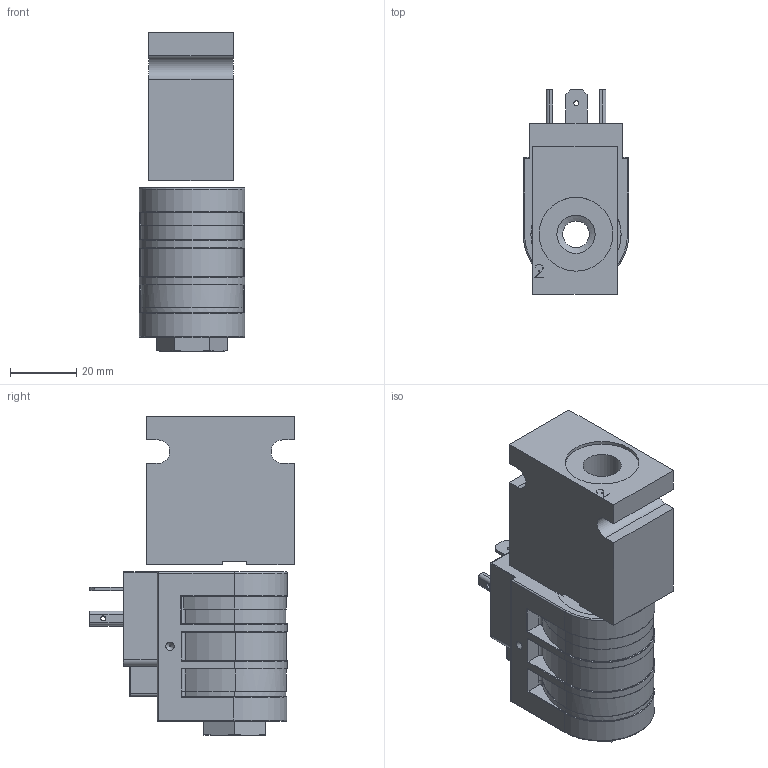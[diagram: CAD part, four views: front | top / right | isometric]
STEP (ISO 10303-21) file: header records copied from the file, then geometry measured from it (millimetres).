
FILE_DESCRIPTION(/* description */ ('Unknown'),/* implementation_level */ '2;1');
FILE_NAME(/* name */ 'UAS2F00',/* time_stamp */ '2017-04-26T09:35:16+01:00',/* author */ ('Unknown'),/* organization */ ('Unknown'),/* preprocessor_version */ 'ST-DEVELOPER v16.7',/* originating_system */ 'DEX',/* authorisation */ $);
FILE_SCHEMA (('AUTOMOTIVE_DESIGN {1 0 10303 214 3 1 1}'));
Length unit declared in the file: millimetre
Products named in the file (10): UAS2F00; UAS2F00-3D_Full; UAS2F00-3D_Full001; B-DMAA2; D-PHC - Copy; PT-EL-HC-TerminalConnectors; PHC_HirschThread; PHC_Disc; PHC_Body; Delta_1_2_nut1
Assembly tree (10 placements, depth 3):
  UAS2F00
    UAS2F00-3D_Full
    UAS2F00-3D_Full001
    B-DMAA2
    D-PHC - Copy
      PT-EL-HC-TerminalConnectors
      PHC_HirschThread
      PHC_Disc  x2
      PHC_Body
    Delta_1_2_nut1
Bounding box: 31.75 x 61.59 x 95.9 mm (x, y, z)
Volume: 91140.7 mm3; surface area: 27482.7 mm2
Topology: 10 solids, 10 shells, 325 faces, 800 edges, 498 vertices
Faces by surface type: plane 139, cylinder 108, cone 60, torus 12, sphere 6
Full cylindrical faces by diameter (mm): 0.2 x2, 0.5 x2, 1 x1, 1.5 x3, 4 x2, 6.3 x1, 8 x1, 11.5 x4, 12.7 x1, 13 x1, 13.05 x2, 14.348 x2, 16.48 x1, 22.22 x1, 27.18 x4
Entity records: 9707 total; most frequent: CARTESIAN_POINT 1686, DIRECTION 1525, ORIENTED_EDGE 1390, EDGE_CURVE 695, AXIS2_PLACEMENT_3D 604, VERTEX_POINT 475, EDGE_LOOP 420, FACE_BOUND 420
